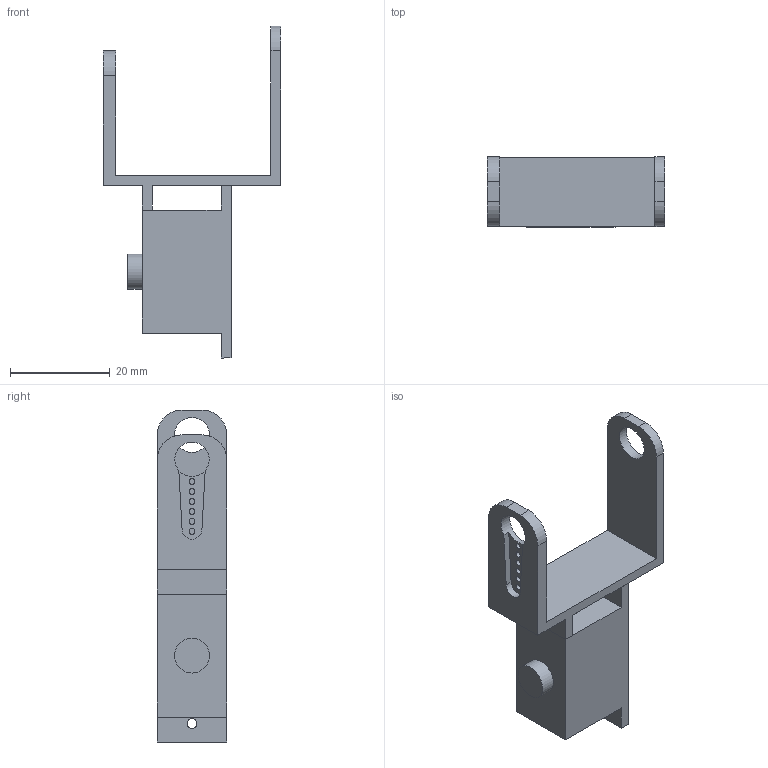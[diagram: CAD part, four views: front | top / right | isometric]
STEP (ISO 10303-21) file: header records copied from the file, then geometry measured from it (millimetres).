
FILE_DESCRIPTION(/* description */ (''),/* implementation_level */ '2;1');
FILE_NAME(/* name */ 'Short Elbow_v1.tmp.step',/* time_stamp */ '2026-11-01T13:11:20+02:00',/* author */ (''),/* organization */ (''),/* preprocessor_version */ 'ST-DEVELOPER v20.2',/* originating_system */ 'Autodesk Translation Framework v15.15.0.0',/* authorisation */ '');
FILE_SCHEMA (('AUTOMOTIVE_DESIGN { 1 0 10303 214 3 1 1 }'));
Length unit declared in the file: millimetre
Products named in the file (2): Short Elbow; Shoulder Servo Cage
Assembly tree (1 placements, depth 2):
  Short Elbow
    Shoulder Servo Cage
Bounding box: 35.7 x 14 x 66.7 mm (x, y, z)
Volume: 4743.5 mm3; surface area: 6729.4 mm2
Topology: 3 solids, 3 shells, 72 faces, 201 edges, 134 vertices
Faces by surface type: plane 56, cylinder 16
Full cylindrical faces by diameter (mm): 1.2 x6, 2 x2, 6.9 x1, 7 x2
Entity records: 2400 total; most frequent: CARTESIAN_POINT 410, ORIENTED_EDGE 402, DIRECTION 385, EDGE_CURVE 201, LINE 167, VECTOR 167, VERTEX_POINT 134, AXIS2_PLACEMENT_3D 109
